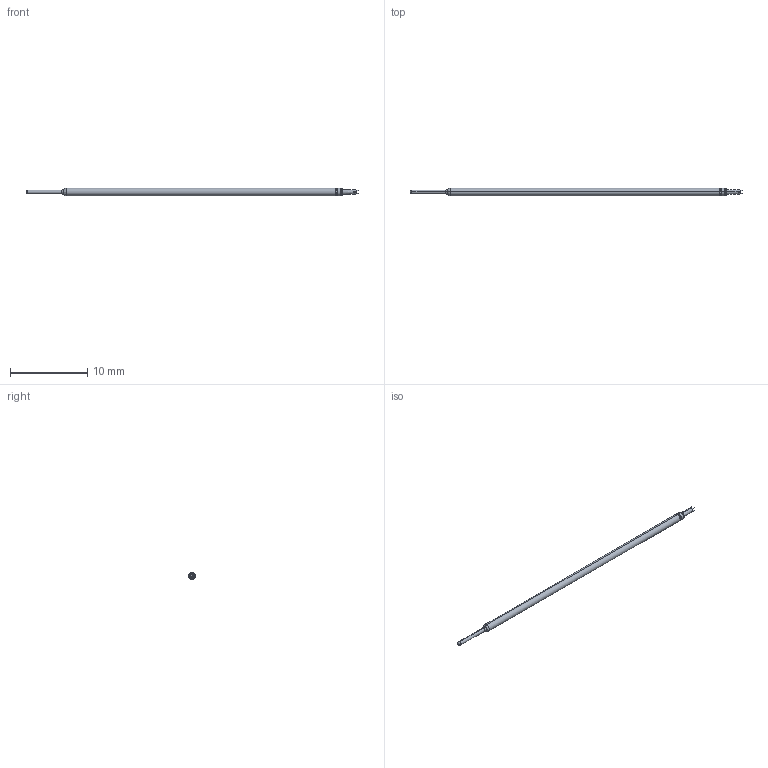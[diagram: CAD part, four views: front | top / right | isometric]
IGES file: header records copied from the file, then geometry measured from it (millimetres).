
Start section: SolidWorks IGES file using analytic representation for surfaces
Global section: file name: C:\Documents and Settings\mrumschlag\Desktop\changes\new\test\L24 FULL.IGS; native system: SolidWorks 2011; preprocessor: SolidWorks 2011; author: mrumschlag; date: 110630.163412; units: inch
Bounding box: 42.93 x 0.97 x 0.97 mm (x, y, z)
Surface area: 121.4 mm2 (no closed solid volume)
Topology: 0 solids, 0 shells, 35 faces, 202 edges, 200 vertices
Faces by surface type: bspline 21, revolution 14
